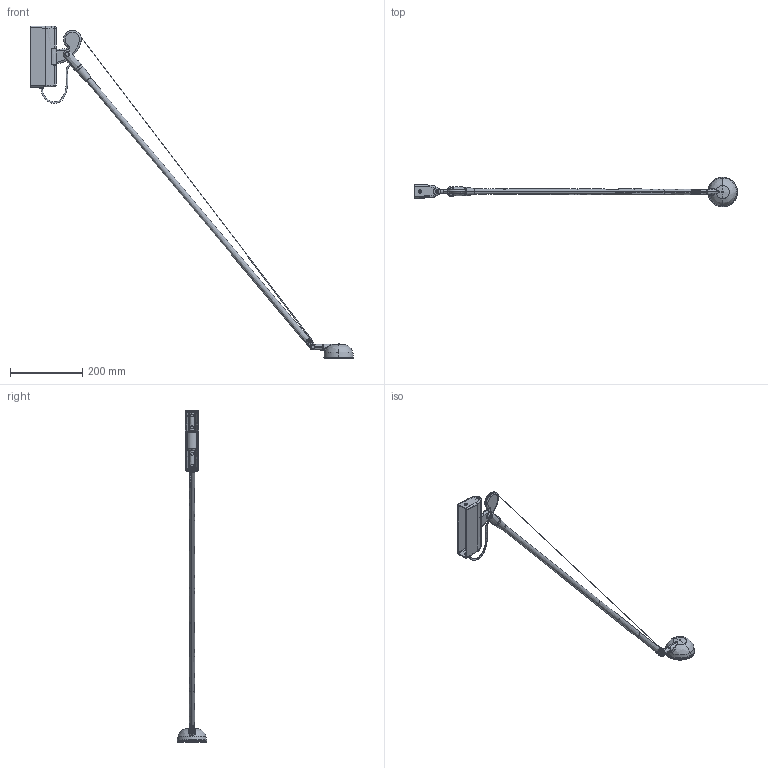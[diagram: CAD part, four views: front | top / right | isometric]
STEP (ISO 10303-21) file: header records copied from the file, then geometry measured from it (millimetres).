
FILE_DESCRIPTION(/* description */ (''),/* implementation_level */ '2;1');
FILE_NAME(/* name */ 'A068__~2',/* time_stamp */ '2024-07-09T17:25:43+02:00',/* author */ (''),/* organization */ (''),/* preprocessor_version */ 'ST-DEVELOPER v16.5',/* originating_system */ '',/* authorisation */ '');
FILE_SCHEMA (('AUTOMOTIVE_DESIGN'));
Products named in the file (1): Document
Bounding box: 896.54 x 81.98 x 921.86 mm (x, y, z)
Volume: 411786.6 mm3; surface area: 223272.9 mm2
Topology: 33 solids, 35 shells, 3429 faces, 7692 edges, 4888 vertices
Faces by surface type: bspline 2408, plane 1021
Entity records: 165715 total; most frequent: CARTESIAN_POINT 119271, ORIENTED_EDGE 15317, EDGE_CURVE 7670, VERTEX_POINT 4888, EDGE_LOOP 4069, B_SPLINE_CURVE_WITH_KNOTS 3731, ADVANCED_FACE 3429, FACE_OUTER_BOUND 3429
